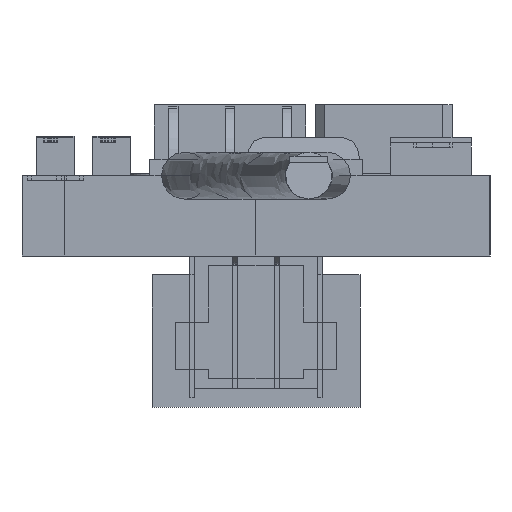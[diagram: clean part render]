
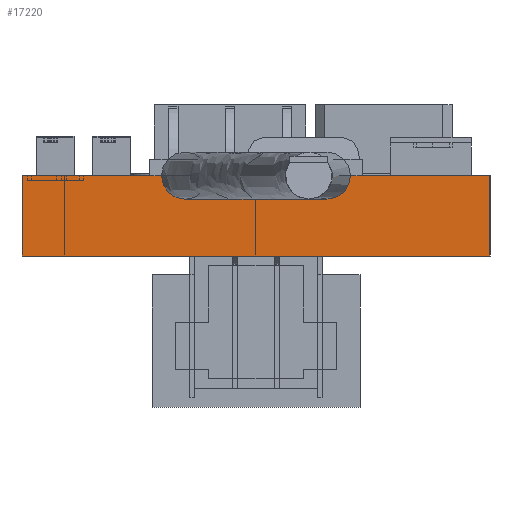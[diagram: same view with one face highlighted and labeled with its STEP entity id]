
A CAD part, left-side view. The second image highlights one B-rep face of the part: STEP entity #17220.
In plain terms, the highlighted planar face has unit normal (-1, 0, 0).
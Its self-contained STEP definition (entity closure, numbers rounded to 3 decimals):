
#925=DIRECTION('',(0.,1.,0.));
#926=VECTOR('',#925,9.9);
#927=CARTESIAN_POINT('',(-6.85,-4.95,0.));
#928=LINE('',#927,#926);
#3252=DIRECTION('',(0.,1.,0.));
#3253=VECTOR('',#3252,3.065);
#3254=CARTESIAN_POINT('',(-6.85,1.885,1.7));
#3255=LINE('',#3254,#3253);
#3256=DIRECTION('',(0.,1.,0.));
#3257=VECTOR('',#3256,0.77);
#3258=CARTESIAN_POINT('',(-6.85,1.115,1.7));
#3259=LINE('',#3258,#3257);
#3260=DIRECTION('',(0.,1.,0.));
#3261=VECTOR('',#3260,2.23);
#3262=CARTESIAN_POINT('',(-6.85,-1.115,1.7));
#3263=LINE('',#3262,#3261);
#3264=DIRECTION('',(0.,1.,0.));
#3265=VECTOR('',#3264,0.77);
#3266=CARTESIAN_POINT('',(-6.85,-1.885,1.7));
#3267=LINE('',#3266,#3265);
#3268=DIRECTION('',(0.,1.,0.));
#3269=VECTOR('',#3268,3.065);
#3270=CARTESIAN_POINT('',(-6.85,-4.95,1.7));
#3271=LINE('',#3270,#3269);
#3272=DIRECTION('',(0.,0.,1.));
#3273=VECTOR('',#3272,1.7);
#3274=CARTESIAN_POINT('',(-6.85,-4.95,0.));
#3275=LINE('',#3274,#3273);
#3280=DIRECTION('',(0.,0.,1.));
#3281=VECTOR('',#3280,1.7);
#3282=CARTESIAN_POINT('',(-6.85,4.95,0.));
#3283=LINE('',#3282,#3281);
#13263=CARTESIAN_POINT('',(-6.85,-1.885,1.7));
#13265=VERTEX_POINT('',#13263);
#13539=CARTESIAN_POINT('',(-6.85,1.115,1.7));
#13541=VERTEX_POINT('',#13539);
#13598=CARTESIAN_POINT('',(-6.85,-4.95,0.));
#13599=VERTEX_POINT('',#13598);
#13984=CARTESIAN_POINT('',(-6.85,1.885,1.7));
#13986=VERTEX_POINT('',#13984);
#13999=CARTESIAN_POINT('',(-6.85,4.95,0.));
#14000=VERTEX_POINT('',#13999);
#14217=CARTESIAN_POINT('',(-6.85,-1.115,1.7));
#14219=VERTEX_POINT('',#14217);
#14675=CARTESIAN_POINT('',(-6.85,-4.95,1.7));
#14677=VERTEX_POINT('',#14675);
#15342=CARTESIAN_POINT('',(-6.85,4.95,1.7));
#15343=VERTEX_POINT('',#15342);
#17203=CARTESIAN_POINT('',(-6.85,-4.95,1.7));
#17204=DIRECTION('',(1.,0.,0.));
#17205=DIRECTION('',(0.,0.,-1.));
#17206=AXIS2_PLACEMENT_3D('',#17203,#17204,#17205);
#17207=PLANE('',#17206);
#17208=ORIENTED_EDGE('',*,*,#15541,.T.);
#17210=ORIENTED_EDGE('',*,*,#17209,.T.);
#17211=ORIENTED_EDGE('',*,*,#15931,.F.);
#17212=ORIENTED_EDGE('',*,*,#17041,.F.);
#17213=ORIENTED_EDGE('',*,*,#15923,.F.);
#17214=ORIENTED_EDGE('',*,*,#16694,.F.);
#17215=ORIENTED_EDGE('',*,*,#15939,.F.);
#17217=ORIENTED_EDGE('',*,*,#17216,.F.);
#17218=EDGE_LOOP('',(#17208,#17210,#17211,#17212,#17213,#17214,#17215,#17217));
#17219=FACE_OUTER_BOUND('',#17218,.F.);
#17220=ADVANCED_FACE('',(#17219),#17207,.F.);
#15541=EDGE_CURVE('',#13599,#14000,#928,.T.);
#15923=EDGE_CURVE('',#14219,#13541,#3263,.T.);
#15931=EDGE_CURVE('',#13986,#15343,#3255,.T.);
#15939=EDGE_CURVE('',#14677,#13265,#3271,.T.);
#16694=EDGE_CURVE('',#13265,#14219,#3267,.T.);
#17041=EDGE_CURVE('',#13541,#13986,#3259,.T.);
#17209=EDGE_CURVE('',#14000,#15343,#3283,.T.);
#17216=EDGE_CURVE('',#13599,#14677,#3275,.T.);
